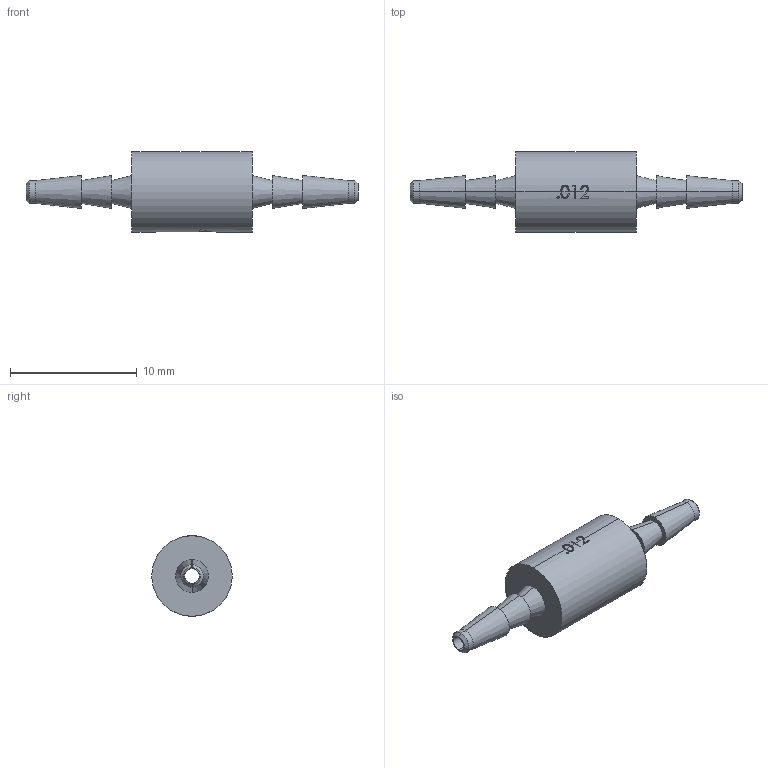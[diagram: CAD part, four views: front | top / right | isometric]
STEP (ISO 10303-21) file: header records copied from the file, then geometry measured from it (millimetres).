
FILE_DESCRIPTION(/* description */ ('SolidWorks IGES file using analytic representation for surfaces '),/* implementation_level */ '2;1');
FILE_NAME(/* name */ 'K:\Normteile INVENTOR\Air-Logic\Orifice restrictors\F-2815-121-B80.IGS.ipt.stp',/* time_stamp */ '2020-05-27T10:46:10+02:00',/* author */ ('cad'),/* organization */ (''),/* preprocessor_version */ 'ST-DEVELOPER v18',/* originating_system */ 'Autodesk Inventor 2020',/* authorisation */ '');
FILE_SCHEMA (('AUTOMOTIVE_DESIGN { 1 0 10303 214 3 1 1 }'));
Length unit declared in the file: millimetre
Products named in the file (1): F-2815-121-B80.IGS
Bounding box: 26.21 x 6.35 x 6.35 mm (x, y, z)
Surface area: 467 mm2 (no closed solid volume)
Topology: 0 solids, 80 shells, 80 faces, 387 edges, 387 vertices
Faces by surface type: bspline 24, plane 22, cylinder 18, cone 16
Entity records: 6700 total; most frequent: CARTESIAN_POINT 3681, DIRECTION 498, VERTEX_POINT 387, EDGE_CURVE 387, ORIENTED_EDGE 387, LINE 190, VECTOR 190, AXIS2_PLACEMENT_3D 154
